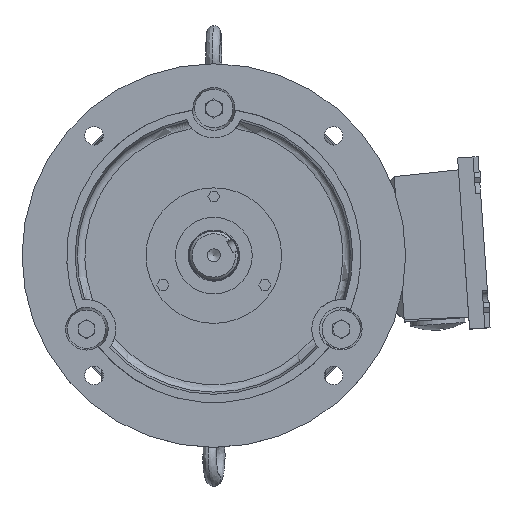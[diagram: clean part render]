
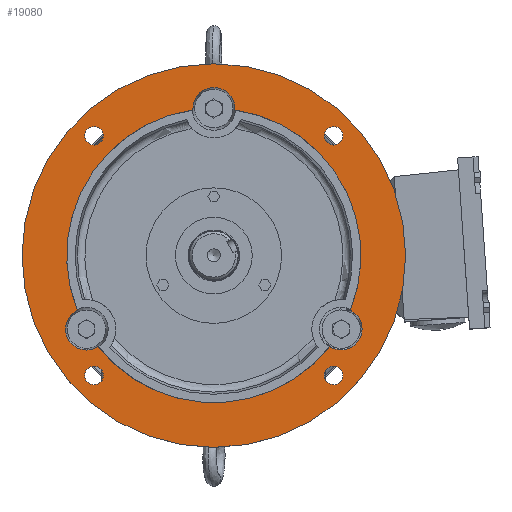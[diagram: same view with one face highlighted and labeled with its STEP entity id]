
A CAD part, top view. The second image highlights one B-rep face of the part: STEP entity #19080.
In plain terms, the highlighted planar face has unit normal (0, 0, 1) as drawn and (-1, 0, 0) by its records, which use the part's own axes.
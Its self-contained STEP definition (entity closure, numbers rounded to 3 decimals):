
#239=FACE_BOUND('',#3250,.T.);
#240=FACE_BOUND('',#3251,.T.);
#241=FACE_BOUND('',#3252,.T.);
#242=FACE_BOUND('',#3253,.T.);
#243=FACE_BOUND('',#3254,.T.);
#922=PLANE('',#20455);
#2060=FACE_OUTER_BOUND('',#3249,.T.);
#3249=EDGE_LOOP('',(#14823));
#3250=EDGE_LOOP('',(#14824));
#3251=EDGE_LOOP('',(#14825));
#3252=EDGE_LOOP('',(#14826));
#3253=EDGE_LOOP('',(#14827));
#3254=EDGE_LOOP('',(#14828,#14829,#14830,#14831,#14832,#14833,#14834,#14835,
#14836));
#8301=CIRCLE('',#20315,16.36);
#8305=CIRCLE('',#20319,16.36);
#8307=CIRCLE('',#20322,16.36);
#8311=CIRCLE('',#20326,16.36);
#8315=CIRCLE('',#20332,16.36);
#8319=CIRCLE('',#20336,16.36);
#8323=CIRCLE('',#20342,7.25);
#8325=CIRCLE('',#20345,7.25);
#8327=CIRCLE('',#20348,7.25);
#8329=CIRCLE('',#20351,7.25);
#8336=CIRCLE('',#20362,115.);
#8338=CIRCLE('',#20365,150.);
#8356=CIRCLE('',#20392,115.);
#8358=CIRCLE('',#20395,115.);
#9019=VERTEX_POINT('',#43937);
#9020=VERTEX_POINT('',#43939);
#9023=VERTEX_POINT('',#43945);
#9025=VERTEX_POINT('',#43951);
#9026=VERTEX_POINT('',#43953);
#9029=VERTEX_POINT('',#43959);
#9037=VERTEX_POINT('',#44010);
#9038=VERTEX_POINT('',#44012);
#9041=VERTEX_POINT('',#44018);
#9047=VERTEX_POINT('',#44033);
#9049=VERTEX_POINT('',#44039);
#9051=VERTEX_POINT('',#44045);
#9053=VERTEX_POINT('',#44051);
#9060=VERTEX_POINT('',#44076);
#11081=EDGE_CURVE('',#9020,#9019,#8301,.T.);
#11085=EDGE_CURVE('',#9019,#9023,#8305,.T.);
#11088=EDGE_CURVE('',#9026,#9025,#8307,.T.);
#11092=EDGE_CURVE('',#9025,#9029,#8311,.T.);
#11101=EDGE_CURVE('',#9038,#9037,#8315,.T.);
#11105=EDGE_CURVE('',#9037,#9041,#8319,.T.);
#11112=EDGE_CURVE('',#9047,#9047,#8323,.T.);
#11115=EDGE_CURVE('',#9049,#9049,#8325,.T.);
#11118=EDGE_CURVE('',#9051,#9051,#8327,.T.);
#11121=EDGE_CURVE('',#9053,#9053,#8329,.T.);
#11131=EDGE_CURVE('',#9020,#9041,#8336,.T.);
#11133=EDGE_CURVE('',#9060,#9060,#8338,.T.);
#11162=EDGE_CURVE('',#9026,#9023,#8356,.T.);
#11164=EDGE_CURVE('',#9038,#9029,#8358,.T.);
#14823=ORIENTED_EDGE('',*,*,#11133,.T.);
#14824=ORIENTED_EDGE('',*,*,#11112,.F.);
#14825=ORIENTED_EDGE('',*,*,#11115,.F.);
#14826=ORIENTED_EDGE('',*,*,#11118,.F.);
#14827=ORIENTED_EDGE('',*,*,#11121,.F.);
#14828=ORIENTED_EDGE('',*,*,#11131,.F.);
#14829=ORIENTED_EDGE('',*,*,#11081,.T.);
#14830=ORIENTED_EDGE('',*,*,#11085,.T.);
#14831=ORIENTED_EDGE('',*,*,#11162,.F.);
#14832=ORIENTED_EDGE('',*,*,#11088,.T.);
#14833=ORIENTED_EDGE('',*,*,#11092,.T.);
#14834=ORIENTED_EDGE('',*,*,#11164,.F.);
#14835=ORIENTED_EDGE('',*,*,#11101,.T.);
#14836=ORIENTED_EDGE('',*,*,#11105,.T.);
#19080=ADVANCED_FACE('',(#2060,#239,#240,#241,#242,#243),#922,.F.);
#20315=AXIS2_PLACEMENT_3D('',#43940,#22349,#22350);
#20319=AXIS2_PLACEMENT_3D('',#43947,#22357,#22358);
#20322=AXIS2_PLACEMENT_3D('',#43954,#22364,#22365);
#20326=AXIS2_PLACEMENT_3D('',#43961,#22372,#22373);
#20332=AXIS2_PLACEMENT_3D('',#44013,#22385,#22386);
#20336=AXIS2_PLACEMENT_3D('',#44020,#22393,#22394);
#20342=AXIS2_PLACEMENT_3D('',#44035,#22408,#22409);
#20345=AXIS2_PLACEMENT_3D('',#44041,#22415,#22416);
#20348=AXIS2_PLACEMENT_3D('',#44047,#22422,#22423);
#20351=AXIS2_PLACEMENT_3D('',#44053,#22429,#22430);
#20362=AXIS2_PLACEMENT_3D('',#44073,#22454,#22455);
#20365=AXIS2_PLACEMENT_3D('',#44077,#22460,#22461);
#20392=AXIS2_PLACEMENT_3D('',#44168,#22521,#22522);
#20395=AXIS2_PLACEMENT_3D('',#44171,#22527,#22528);
#20455=AXIS2_PLACEMENT_3D('',#44403,#22709,#22710);
#22349=DIRECTION('center_axis',(1.,0.,0.));
#22350=DIRECTION('ref_axis',(0.,0.,-1.));
#22357=DIRECTION('center_axis',(1.,0.,0.));
#22358=DIRECTION('ref_axis',(0.,0.,-1.));
#22364=DIRECTION('center_axis',(1.,0.,0.));
#22365=DIRECTION('ref_axis',(0.,0.,-1.));
#22372=DIRECTION('center_axis',(1.,0.,0.));
#22373=DIRECTION('ref_axis',(0.,0.,-1.));
#22385=DIRECTION('center_axis',(1.,0.,0.));
#22386=DIRECTION('ref_axis',(0.,0.,-1.));
#22393=DIRECTION('center_axis',(1.,0.,0.));
#22394=DIRECTION('ref_axis',(0.,0.,-1.));
#22408=DIRECTION('center_axis',(-1.,0.,0.));
#22409=DIRECTION('ref_axis',(0.,0.,1.));
#22415=DIRECTION('center_axis',(-1.,0.,0.));
#22416=DIRECTION('ref_axis',(0.,0.,1.));
#22422=DIRECTION('center_axis',(-1.,0.,0.));
#22423=DIRECTION('ref_axis',(0.,0.,1.));
#22429=DIRECTION('center_axis',(-1.,0.,0.));
#22430=DIRECTION('ref_axis',(0.,0.,1.));
#22454=DIRECTION('center_axis',(-1.,0.,0.));
#22455=DIRECTION('ref_axis',(0.,0.,1.));
#22460=DIRECTION('center_axis',(-1.,0.,0.));
#22461=DIRECTION('ref_axis',(0.,0.,1.));
#22521=DIRECTION('center_axis',(-1.,0.,0.));
#22522=DIRECTION('ref_axis',(0.,0.,1.));
#22527=DIRECTION('center_axis',(-1.,0.,0.));
#22528=DIRECTION('ref_axis',(0.,0.,1.));
#22709=DIRECTION('center_axis',(1.,0.,0.));
#22710=DIRECTION('ref_axis',(0.,0.,-1.));
#43937=CARTESIAN_POINT('',(-8.,-43.332,107.773));
#43939=CARTESIAN_POINT('',(-8.,-42.786,106.744));
#43940=CARTESIAN_POINT('Origin',(-8.,-57.5,99.593));
#43945=CARTESIAN_POINT('',(-8.,-71.05,90.426));
#43947=CARTESIAN_POINT('Origin',(-8.,-57.5,99.593));
#43951=CARTESIAN_POINT('',(-8.,-71.668,-91.413));
#43953=CARTESIAN_POINT('',(-8.,-71.05,-90.426));
#43954=CARTESIAN_POINT('Origin',(-8.,-57.5,-99.593));
#43959=CARTESIAN_POINT('',(-8.,-42.786,-106.744));
#43961=CARTESIAN_POINT('Origin',(-8.,-57.5,-99.593));
#44010=CARTESIAN_POINT('',(-8.,115.,-16.36));
#44012=CARTESIAN_POINT('',(-8.,113.836,-16.319));
#44013=CARTESIAN_POINT('Origin',(-8.,115.,0.));
#44018=CARTESIAN_POINT('',(-8.,113.836,16.319));
#44020=CARTESIAN_POINT('Origin',(-8.,115.,0.));
#44033=CARTESIAN_POINT('',(-8.,93.692,-100.942));
#44035=CARTESIAN_POINT('Origin',(-8.,93.692,-93.692));
#44039=CARTESIAN_POINT('',(-8.,-93.692,-100.942));
#44041=CARTESIAN_POINT('Origin',(-8.,-93.692,-93.692));
#44045=CARTESIAN_POINT('',(-8.,-93.692,86.442));
#44047=CARTESIAN_POINT('Origin',(-8.,-93.692,93.692));
#44051=CARTESIAN_POINT('',(-8.,93.692,86.442));
#44053=CARTESIAN_POINT('Origin',(-8.,93.692,93.692));
#44073=CARTESIAN_POINT('Origin',(-8.,0.,0.));
#44076=CARTESIAN_POINT('',(-8.,0.,-150.));
#44077=CARTESIAN_POINT('Origin',(-8.,0.,0.));
#44168=CARTESIAN_POINT('Origin',(-8.,0.,0.));
#44171=CARTESIAN_POINT('Origin',(-8.,0.,0.));
#44403=CARTESIAN_POINT('Origin',(-8.,115.,0.));
